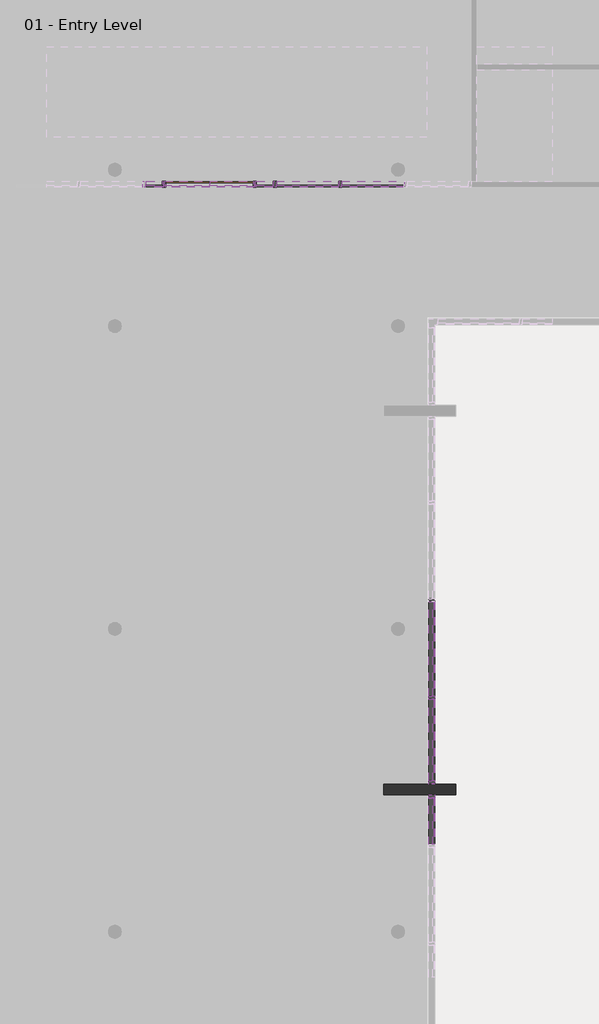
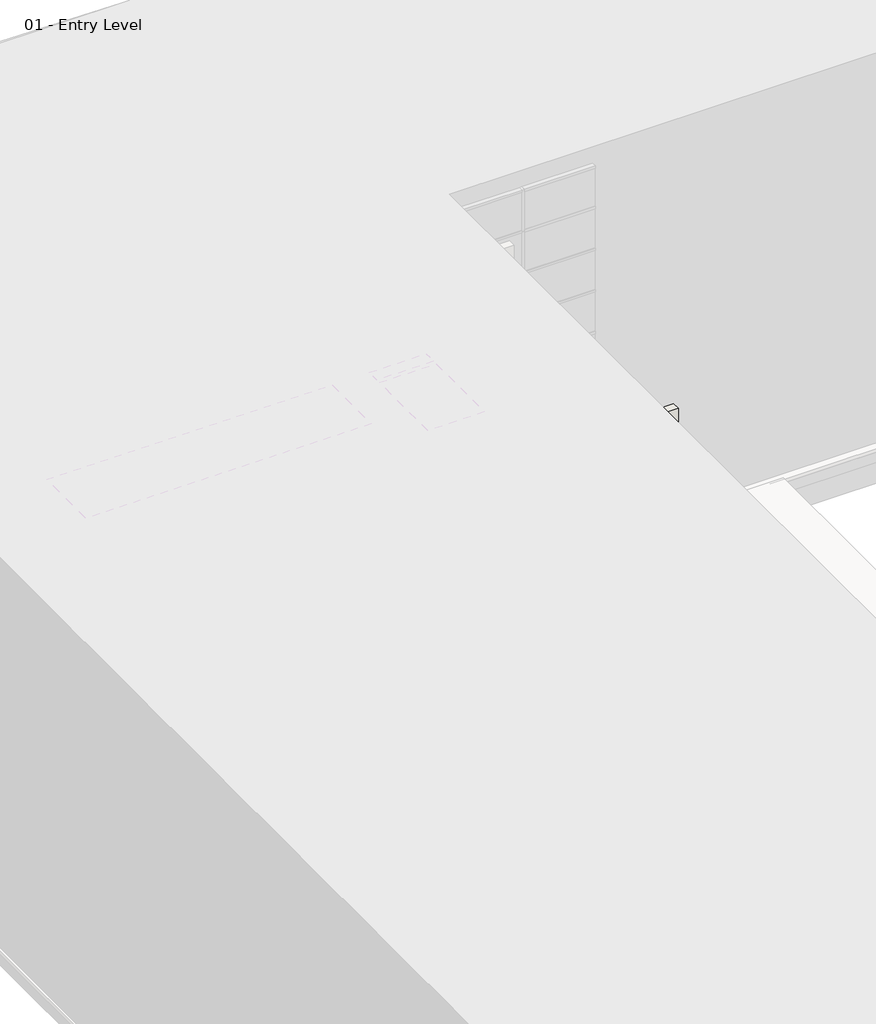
# One storey, part 24 of 35: 84 members, 35 plates, 1 door, 1 wall.
"""IFC4 building model written with IfcOpenShell, lengths in millimetres."""

from ifc_helpers import new_model, si_unit, origin, origin_with_axes, place, context, project, spatial, polyline, outline, extrude, transform, mapped, element, save
from components import curtain_wall_dbl_glass_curtain_wall_dbl_glass_a5de0235, member_2b49869a, member_75074519, member_18e22e2d, member_391b434c, member_9e90ae50, member_9193c932, member_515a5600, member_9fe7059d, member_6186cc23, member_5d67b9fc, member_1526e78e, member_7bb4584e, member_a24b65ef, member_2fd083e0, member_5d3d0423, member_bc0ecbbc, member_9c90f9a7, member_7b5c996e, member_fc8dcb27, member_ab56a4f5, member_6f538441, member_86ee58f4, member_2917896d, member_173ef4f5, member_5788e328, system_panel_glazed_1b9d6098, system_panel_glazed_70da479d, system_panel_glazed_bfb2913e, system_panel_glazed_9f006979, system_panel_glazed_379c68fb, system_panel_glazed_1c1023c8, system_panel_glazed_c092dd15, system_panel_glazed_f6aa3a43, system_panel_glazed_ef26b6ac, system_panel_glazed_1a787650, system_panel_glazed_06504d0b, system_panel_glazed_db96f60a

model = new_model("IFC4")

# Units and contexts
model_context = context("Model", 3, world=origin())
ifc_project = project(units=[si_unit("LENGTHUNIT", "METRE", prefix="MILLI")], contexts=[model_context])

# Site, building, storey
site = spatial("IfcSite", under=ifc_project)
building = spatial("IfcBuilding", under=site)
storey = spatial("IfcBuildingStorey", under=building, Name="01 - Entry Level", Elevation=0.0)

# Door
placement = place(None, origin())
curtain_wall_dbl_glass_curtain_wall_dbl_glass_shape = curtain_wall_dbl_glass_curtain_wall_dbl_glass_a5de0235(model_context)
element("IfcDoor", 1, ObjectType="Curtain Wall Dbl Glass : Curtain Wall Dbl Glass", at=placement, inside=storey, context=model_context, shape_type="MappedRepresentation", body=[
    mapped(curtain_wall_dbl_glass_curtain_wall_dbl_glass_shape, transform((12561.2207476, 45608.8, 0.0), x_axis=(-1.0, 0.0, 0.0), y_axis=(0.0, -1.0, 0.0), z_axis=(0.0, 0.0, 1.0))),
])

# Members
member_shape = member_2b49869a(model_context)
element("IfcMember", 2, ObjectType="Rectangular Mullion : 2.5\" x 5\" rectangular", at=placement, inside=storey, context=model_context, shape_type="MappedRepresentation", body=[
    mapped(member_shape, transform((17184.0207476, 34928.1, 9753.6), x_axis=(0.0, 1.0, 0.0), y_axis=(1.0, 0.0, 0.0), z_axis=(0.0, 0.0, -1.0))),
])
member_2_shape = member_75074519(model_context)
element("IfcMember", 3, ObjectType="Rectangular Mullion : 2.5\" x 5\" rectangular", at=placement, inside=storey, context=model_context, shape_type="MappedRepresentation", body=[
    mapped(member_2_shape, transform((17184.0207476, 33137.4, 10972.8), x_axis=(0.0, -1.0, 0.0), y_axis=(1.0, 0.0, 0.0), z_axis=(0.0, 0.0, 1.0))),
])
element("IfcMember", 4, ObjectType="Rectangular Mullion : 2.5\" x 5\" rectangular", at=placement, inside=storey, context=model_context, shape_type="MappedRepresentation", body=[
    mapped(member_2_shape, transform((17184.0207476, 32908.8, 9753.6), x_axis=(0.0, 1.0, 0.0), y_axis=(1.0, 0.0, 0.0), z_axis=(0.0, 0.0, -1.0))),
])
member_3_shape = member_18e22e2d(model_context)
element("IfcMember", 5, ObjectType="Rectangular Mullion : 2.5\" x 5\" rectangular", at=placement, inside=storey, context=model_context, shape_type="MappedRepresentation", body=[
    mapped(member_3_shape, transform((15283.5564619, 45608.8, 2438.4), x_axis=(-1.0, 0.0, 0.0), y_axis=(0.0, 1.0, 0.0), z_axis=(0.0, 0.0, -1.0))),
])
element("IfcMember", 6, ObjectType="Rectangular Mullion : 2.5\" x 5\" rectangular", at=placement, inside=storey, context=model_context, shape_type="MappedRepresentation", body=[
    mapped(member_3_shape, transform((13923.7493191, 45608.8, 2438.4), x_axis=(-1.0, 0.0, 0.0), y_axis=(0.0, 1.0, 0.0), z_axis=(0.0, 0.0, -1.0))),
])
member_4_shape = member_391b434c(model_context)
element("IfcMember", 7, ObjectType="Rectangular Mullion : 2.5\" x 5\" rectangular", at=placement, inside=storey, context=model_context, shape_type="MappedRepresentation", body=[
    mapped(member_4_shape, transform((17184.0207476, 36928.35, 10972.8), x_axis=(0.0, 0.0, 1.0), y_axis=(1.0, 0.0, 0.0), z_axis=(0.0, 1.0, 0.0))),
])
element("IfcMember", 8, ObjectType="Rectangular Mullion : 2.5\" x 5\" rectangular", at=placement, inside=storey, context=model_context, shape_type="MappedRepresentation", body=[
    mapped(member_4_shape, transform((17184.0207476, 34959.85, 0.0), x_axis=(0.0, 0.0, -1.0), y_axis=(1.0, 0.0, 0.0), z_axis=(0.0, -1.0, 0.0))),
])
element("IfcMember", 9, ObjectType="Rectangular Mullion : 2.5\" x 5\" rectangular", at=placement, inside=storey, context=model_context, shape_type="MappedRepresentation", body=[
    mapped(member_4_shape, transform((17184.0207476, 36991.85, 0.0), x_axis=(0.0, 0.0, -1.0), y_axis=(1.0, 0.0, 0.0), z_axis=(0.0, -1.0, 0.0))),
])
member_5_shape = member_9e90ae50(model_context)
element("IfcMember", 10, ObjectType="Rectangular Mullion : 2.5\" x 5\" rectangular", at=placement, inside=storey, context=model_context, shape_type="MappedRepresentation", body=[
    mapped(member_5_shape, transform((17184.0207476, 36928.35, 1219.2), x_axis=(0.0, 0.0, 1.0), y_axis=(1.0, 0.0, 0.0), z_axis=(0.0, 1.0, 0.0))),
])
element("IfcMember", 11, ObjectType="Rectangular Mullion : 2.5\" x 5\" rectangular", at=placement, inside=storey, context=model_context, shape_type="MappedRepresentation", body=[
    mapped(member_5_shape, transform((17184.0207476, 36928.35, 2438.4), x_axis=(0.0, 0.0, 1.0), y_axis=(1.0, 0.0, 0.0), z_axis=(0.0, 1.0, 0.0))),
])
element("IfcMember", 12, ObjectType="Rectangular Mullion : 2.5\" x 5\" rectangular", at=placement, inside=storey, context=model_context, shape_type="MappedRepresentation", body=[
    mapped(member_5_shape, transform((17184.0207476, 36928.35, 3657.6), x_axis=(0.0, 0.0, 1.0), y_axis=(1.0, 0.0, 0.0), z_axis=(0.0, 1.0, 0.0))),
])
element("IfcMember", 13, ObjectType="Rectangular Mullion : 2.5\" x 5\" rectangular", at=placement, inside=storey, context=model_context, shape_type="MappedRepresentation", body=[
    mapped(member_5_shape, transform((17184.0207476, 36928.35, 4876.8), x_axis=(0.0, 0.0, 1.0), y_axis=(1.0, 0.0, 0.0), z_axis=(0.0, 1.0, 0.0))),
])
element("IfcMember", 14, ObjectType="Rectangular Mullion : 2.5\" x 5\" rectangular", at=placement, inside=storey, context=model_context, shape_type="MappedRepresentation", body=[
    mapped(member_5_shape, transform((17184.0207476, 36928.35, 6096.0), x_axis=(0.0, 0.0, 1.0), y_axis=(1.0, 0.0, 0.0), z_axis=(0.0, 1.0, 0.0))),
])
element("IfcMember", 15, ObjectType="Rectangular Mullion : 2.5\" x 5\" rectangular", at=placement, inside=storey, context=model_context, shape_type="MappedRepresentation", body=[
    mapped(member_5_shape, transform((17184.0207476, 36928.35, 7315.2), x_axis=(0.0, 0.0, 1.0), y_axis=(1.0, 0.0, 0.0), z_axis=(0.0, 1.0, 0.0))),
])
element("IfcMember", 16, ObjectType="Rectangular Mullion : 2.5\" x 5\" rectangular", at=placement, inside=storey, context=model_context, shape_type="MappedRepresentation", body=[
    mapped(member_5_shape, transform((17184.0207476, 36928.35, 8534.4), x_axis=(0.0, 0.0, 1.0), y_axis=(1.0, 0.0, 0.0), z_axis=(0.0, 1.0, 0.0))),
])
element("IfcMember", 17, ObjectType="Rectangular Mullion : 2.5\" x 5\" rectangular", at=placement, inside=storey, context=model_context, shape_type="MappedRepresentation", body=[
    mapped(member_5_shape, transform((17184.0207476, 36928.35, 9753.6), x_axis=(0.0, 0.0, 1.0), y_axis=(1.0, 0.0, 0.0), z_axis=(0.0, 1.0, 0.0))),
])
element("IfcMember", 18, ObjectType="Rectangular Mullion : 2.5\" x 5\" rectangular", at=placement, inside=storey, context=model_context, shape_type="MappedRepresentation", body=[
    mapped(member_shape, transform((17184.0207476, 34928.1, 0.0), x_axis=(0.0, 1.0, 0.0), y_axis=(1.0, 0.0, 0.0), z_axis=(0.0, 0.0, -1.0))),
])
element("IfcMember", 19, ObjectType="Rectangular Mullion : 2.5\" x 5\" rectangular", at=placement, inside=storey, context=model_context, shape_type="MappedRepresentation", body=[
    mapped(member_shape, transform((17184.0207476, 36960.1, 0.0), x_axis=(0.0, 1.0, 0.0), y_axis=(1.0, 0.0, 0.0), z_axis=(0.0, 0.0, -1.0))),
])
element("IfcMember", 20, ObjectType="Rectangular Mullion : 2.5\" x 5\" rectangular", at=placement, inside=storey, context=model_context, shape_type="MappedRepresentation", body=[
    mapped(member_shape, transform((17184.0207476, 34928.1, 1219.2), x_axis=(0.0, 1.0, 0.0), y_axis=(1.0, 0.0, 0.0), z_axis=(0.0, 0.0, -1.0))),
])
element("IfcMember", 21, ObjectType="Rectangular Mullion : 2.5\" x 5\" rectangular", at=placement, inside=storey, context=model_context, shape_type="MappedRepresentation", body=[
    mapped(member_shape, transform((17184.0207476, 34928.1, 2438.4), x_axis=(0.0, 1.0, 0.0), y_axis=(1.0, 0.0, 0.0), z_axis=(0.0, 0.0, -1.0))),
])
element("IfcMember", 22, ObjectType="Rectangular Mullion : 2.5\" x 5\" rectangular", at=placement, inside=storey, context=model_context, shape_type="MappedRepresentation", body=[
    mapped(member_shape, transform((17184.0207476, 34928.1, 3657.6), x_axis=(0.0, 1.0, 0.0), y_axis=(1.0, 0.0, 0.0), z_axis=(0.0, 0.0, -1.0))),
])
element("IfcMember", 23, ObjectType="Rectangular Mullion : 2.5\" x 5\" rectangular", at=placement, inside=storey, context=model_context, shape_type="MappedRepresentation", body=[
    mapped(member_shape, transform((17184.0207476, 34928.1, 4876.8), x_axis=(0.0, 1.0, 0.0), y_axis=(1.0, 0.0, 0.0), z_axis=(0.0, 0.0, -1.0))),
])
element("IfcMember", 24, ObjectType="Rectangular Mullion : 2.5\" x 5\" rectangular", at=placement, inside=storey, context=model_context, shape_type="MappedRepresentation", body=[
    mapped(member_shape, transform((17184.0207476, 34928.1, 6096.0), x_axis=(0.0, 1.0, 0.0), y_axis=(1.0, 0.0, 0.0), z_axis=(0.0, 0.0, -1.0))),
])
element("IfcMember", 25, ObjectType="Rectangular Mullion : 2.5\" x 5\" rectangular", at=placement, inside=storey, context=model_context, shape_type="MappedRepresentation", body=[
    mapped(member_shape, transform((17184.0207476, 34928.1, 7315.2), x_axis=(0.0, 1.0, 0.0), y_axis=(1.0, 0.0, 0.0), z_axis=(0.0, 0.0, -1.0))),
])
element("IfcMember", 26, ObjectType="Rectangular Mullion : 2.5\" x 5\" rectangular", at=placement, inside=storey, context=model_context, shape_type="MappedRepresentation", body=[
    mapped(member_shape, transform((17184.0207476, 34928.1, 8534.4), x_axis=(0.0, 1.0, 0.0), y_axis=(1.0, 0.0, 0.0), z_axis=(0.0, 0.0, -1.0))),
])
element("IfcMember", 27, ObjectType="Rectangular Mullion : 2.5\" x 5\" rectangular", at=placement, inside=storey, context=model_context, shape_type="MappedRepresentation", body=[
    mapped(member_2_shape, transform((17184.0207476, 32908.8, 0.0), x_axis=(0.0, 1.0, 0.0), y_axis=(1.0, 0.0, 0.0), z_axis=(0.0, 0.0, -1.0))),
])
element("IfcMember", 28, ObjectType="Rectangular Mullion : 2.5\" x 5\" rectangular", at=placement, inside=storey, context=model_context, shape_type="MappedRepresentation", body=[
    mapped(member_2_shape, transform((17184.0207476, 32908.8, 1219.2), x_axis=(0.0, 1.0, 0.0), y_axis=(1.0, 0.0, 0.0), z_axis=(0.0, 0.0, -1.0))),
])
element("IfcMember", 29, ObjectType="Rectangular Mullion : 2.5\" x 5\" rectangular", at=placement, inside=storey, context=model_context, shape_type="MappedRepresentation", body=[
    mapped(member_2_shape, transform((17184.0207476, 32908.8, 2438.4), x_axis=(0.0, 1.0, 0.0), y_axis=(1.0, 0.0, 0.0), z_axis=(0.0, 0.0, -1.0))),
])
element("IfcMember", 30, ObjectType="Rectangular Mullion : 2.5\" x 5\" rectangular", at=placement, inside=storey, context=model_context, shape_type="MappedRepresentation", body=[
    mapped(member_2_shape, transform((17184.0207476, 32908.8, 3657.6), x_axis=(0.0, 1.0, 0.0), y_axis=(1.0, 0.0, 0.0), z_axis=(0.0, 0.0, -1.0))),
])
element("IfcMember", 31, ObjectType="Rectangular Mullion : 2.5\" x 5\" rectangular", at=placement, inside=storey, context=model_context, shape_type="MappedRepresentation", body=[
    mapped(member_2_shape, transform((17184.0207476, 32908.8, 4876.8), x_axis=(0.0, 1.0, 0.0), y_axis=(1.0, 0.0, 0.0), z_axis=(0.0, 0.0, -1.0))),
])
element("IfcMember", 32, ObjectType="Rectangular Mullion : 2.5\" x 5\" rectangular", at=placement, inside=storey, context=model_context, shape_type="MappedRepresentation", body=[
    mapped(member_2_shape, transform((17184.0207476, 32908.8, 6096.0), x_axis=(0.0, 1.0, 0.0), y_axis=(1.0, 0.0, 0.0), z_axis=(0.0, 0.0, -1.0))),
])
element("IfcMember", 33, ObjectType="Rectangular Mullion : 2.5\" x 5\" rectangular", at=placement, inside=storey, context=model_context, shape_type="MappedRepresentation", body=[
    mapped(member_2_shape, transform((17184.0207476, 32908.8, 7315.2), x_axis=(0.0, 1.0, 0.0), y_axis=(1.0, 0.0, 0.0), z_axis=(0.0, 0.0, -1.0))),
])
element("IfcMember", 34, ObjectType="Rectangular Mullion : 2.5\" x 5\" rectangular", at=placement, inside=storey, context=model_context, shape_type="MappedRepresentation", body=[
    mapped(member_2_shape, transform((17184.0207476, 32908.8, 8534.4), x_axis=(0.0, 1.0, 0.0), y_axis=(1.0, 0.0, 0.0), z_axis=(0.0, 0.0, -1.0))),
])
element("IfcMember", 35, ObjectType="Rectangular Mullion : 2.5\" x 5\" rectangular", at=placement, inside=storey, context=model_context, shape_type="MappedRepresentation", body=[
    mapped(member_2_shape, transform((17184.0207476, 33137.4, 1219.2), x_axis=(0.0, -1.0, 0.0), y_axis=(1.0, 0.0, 0.0), z_axis=(0.0, 0.0, 1.0))),
])
element("IfcMember", 36, ObjectType="Rectangular Mullion : 2.5\" x 5\" rectangular", at=placement, inside=storey, context=model_context, shape_type="MappedRepresentation", body=[
    mapped(member_2_shape, transform((17184.0207476, 33137.4, 2438.4), x_axis=(0.0, -1.0, 0.0), y_axis=(1.0, 0.0, 0.0), z_axis=(0.0, 0.0, 1.0))),
])
element("IfcMember", 37, ObjectType="Rectangular Mullion : 2.5\" x 5\" rectangular", at=placement, inside=storey, context=model_context, shape_type="MappedRepresentation", body=[
    mapped(member_2_shape, transform((17184.0207476, 33137.4, 3657.6), x_axis=(0.0, -1.0, 0.0), y_axis=(1.0, 0.0, 0.0), z_axis=(0.0, 0.0, 1.0))),
])
element("IfcMember", 38, ObjectType="Rectangular Mullion : 2.5\" x 5\" rectangular", at=placement, inside=storey, context=model_context, shape_type="MappedRepresentation", body=[
    mapped(member_2_shape, transform((17184.0207476, 33137.4, 4876.8), x_axis=(0.0, -1.0, 0.0), y_axis=(1.0, 0.0, 0.0), z_axis=(0.0, 0.0, 1.0))),
])
element("IfcMember", 39, ObjectType="Rectangular Mullion : 2.5\" x 5\" rectangular", at=placement, inside=storey, context=model_context, shape_type="MappedRepresentation", body=[
    mapped(member_2_shape, transform((17184.0207476, 33137.4, 6096.0), x_axis=(0.0, -1.0, 0.0), y_axis=(1.0, 0.0, 0.0), z_axis=(0.0, 0.0, 1.0))),
])
element("IfcMember", 40, ObjectType="Rectangular Mullion : 2.5\" x 5\" rectangular", at=placement, inside=storey, context=model_context, shape_type="MappedRepresentation", body=[
    mapped(member_2_shape, transform((17184.0207476, 33137.4, 7315.2), x_axis=(0.0, -1.0, 0.0), y_axis=(1.0, 0.0, 0.0), z_axis=(0.0, 0.0, 1.0))),
])
element("IfcMember", 41, ObjectType="Rectangular Mullion : 2.5\" x 5\" rectangular", at=placement, inside=storey, context=model_context, shape_type="MappedRepresentation", body=[
    mapped(member_2_shape, transform((17184.0207476, 33137.4, 8534.4), x_axis=(0.0, -1.0, 0.0), y_axis=(1.0, 0.0, 0.0), z_axis=(0.0, 0.0, 1.0))),
])
element("IfcMember", 42, ObjectType="Rectangular Mullion : 2.5\" x 5\" rectangular", at=placement, inside=storey, context=model_context, shape_type="MappedRepresentation", body=[
    mapped(member_2_shape, transform((17184.0207476, 33137.4, 9753.6), x_axis=(0.0, -1.0, 0.0), y_axis=(1.0, 0.0, 0.0), z_axis=(0.0, 0.0, 1.0))),
])
member_6_shape = member_9193c932(model_context)
element("IfcMember", 43, ObjectType="Rectangular Mullion : 2.5\" x 5\" rectangular", at=placement, inside=storey, context=model_context, shape_type="MappedRepresentation", body=[
    mapped(member_6_shape, transform((17184.0207476, 32845.3, 10972.8), x_axis=(0.0, 0.0, 1.0), y_axis=(1.0, 0.0, 0.0), z_axis=(0.0, 1.0, 0.0))),
])
element("IfcMember", 44, ObjectType="Rectangular Mullion : 2.5\" x 5\" rectangular", at=placement, inside=storey, context=model_context, shape_type="MappedRepresentation", body=[
    mapped(member_3_shape, transform((17184.0207476, 32845.3, 1219.2), x_axis=(0.0, 0.0, 1.0), y_axis=(1.0, 0.0, 0.0), z_axis=(0.0, 1.0, 0.0))),
])
element("IfcMember", 45, ObjectType="Rectangular Mullion : 2.5\" x 5\" rectangular", at=placement, inside=storey, context=model_context, shape_type="MappedRepresentation", body=[
    mapped(member_3_shape, transform((17184.0207476, 32845.3, 2438.4), x_axis=(0.0, 0.0, 1.0), y_axis=(1.0, 0.0, 0.0), z_axis=(0.0, 1.0, 0.0))),
])
element("IfcMember", 46, ObjectType="Rectangular Mullion : 2.5\" x 5\" rectangular", at=placement, inside=storey, context=model_context, shape_type="MappedRepresentation", body=[
    mapped(member_3_shape, transform((17184.0207476, 32845.3, 3657.6), x_axis=(0.0, 0.0, 1.0), y_axis=(1.0, 0.0, 0.0), z_axis=(0.0, 1.0, 0.0))),
])
element("IfcMember", 47, ObjectType="Rectangular Mullion : 2.5\" x 5\" rectangular", at=placement, inside=storey, context=model_context, shape_type="MappedRepresentation", body=[
    mapped(member_3_shape, transform((17184.0207476, 32845.3, 4876.8), x_axis=(0.0, 0.0, 1.0), y_axis=(1.0, 0.0, 0.0), z_axis=(0.0, 1.0, 0.0))),
])
element("IfcMember", 48, ObjectType="Rectangular Mullion : 2.5\" x 5\" rectangular", at=placement, inside=storey, context=model_context, shape_type="MappedRepresentation", body=[
    mapped(member_3_shape, transform((17184.0207476, 32845.3, 6096.0), x_axis=(0.0, 0.0, 1.0), y_axis=(1.0, 0.0, 0.0), z_axis=(0.0, 1.0, 0.0))),
])
element("IfcMember", 49, ObjectType="Rectangular Mullion : 2.5\" x 5\" rectangular", at=placement, inside=storey, context=model_context, shape_type="MappedRepresentation", body=[
    mapped(member_3_shape, transform((17184.0207476, 32845.3, 7315.2), x_axis=(0.0, 0.0, 1.0), y_axis=(1.0, 0.0, 0.0), z_axis=(0.0, 1.0, 0.0))),
])
element("IfcMember", 50, ObjectType="Rectangular Mullion : 2.5\" x 5\" rectangular", at=placement, inside=storey, context=model_context, shape_type="MappedRepresentation", body=[
    mapped(member_3_shape, transform((17184.0207476, 32845.3, 8534.4), x_axis=(0.0, 0.0, 1.0), y_axis=(1.0, 0.0, 0.0), z_axis=(0.0, 1.0, 0.0))),
])
element("IfcMember", 51, ObjectType="Rectangular Mullion : 2.5\" x 5\" rectangular", at=placement, inside=storey, context=model_context, shape_type="MappedRepresentation", body=[
    mapped(member_3_shape, transform((17184.0207476, 32845.3, 9753.6), x_axis=(0.0, 0.0, 1.0), y_axis=(1.0, 0.0, 0.0), z_axis=(0.0, 1.0, 0.0))),
])
member_7_shape = member_515a5600(model_context)
element("IfcMember", 52, ObjectType="Rectangular Mullion : 2.5\" x 5\" rectangular", at=placement, inside=storey, context=model_context, shape_type="MappedRepresentation", body=[
    mapped(member_7_shape, transform((17184.0207476, 34896.35, 10972.8), x_axis=(0.0, 0.0, 1.0), y_axis=(1.0, 0.0, 0.0), z_axis=(0.0, 1.0, 0.0))),
])
element("IfcMember", 53, ObjectType="Rectangular Mullion : 2.5\" x 5\" rectangular", at=placement, inside=storey, context=model_context, shape_type="MappedRepresentation", body=[
    mapped(member_7_shape, transform((17184.0207476, 33200.9, 0.0), x_axis=(0.0, 0.0, -1.0), y_axis=(1.0, 0.0, 0.0), z_axis=(0.0, -1.0, 0.0))),
])
member_8_shape = member_9fe7059d(model_context)
element("IfcMember", 54, ObjectType="Rectangular Mullion : 2.5\" x 5\" rectangular", at=placement, inside=storey, context=model_context, shape_type="MappedRepresentation", body=[
    mapped(member_8_shape, transform((17184.0207476, 34896.35, 1219.2), x_axis=(0.0, 0.0, 1.0), y_axis=(1.0, 0.0, 0.0), z_axis=(0.0, 1.0, 0.0))),
])
element("IfcMember", 55, ObjectType="Rectangular Mullion : 2.5\" x 5\" rectangular", at=placement, inside=storey, context=model_context, shape_type="MappedRepresentation", body=[
    mapped(member_8_shape, transform((17184.0207476, 34896.35, 2438.4), x_axis=(0.0, 0.0, 1.0), y_axis=(1.0, 0.0, 0.0), z_axis=(0.0, 1.0, 0.0))),
])
element("IfcMember", 56, ObjectType="Rectangular Mullion : 2.5\" x 5\" rectangular", at=placement, inside=storey, context=model_context, shape_type="MappedRepresentation", body=[
    mapped(member_8_shape, transform((17184.0207476, 34896.35, 3657.6), x_axis=(0.0, 0.0, 1.0), y_axis=(1.0, 0.0, 0.0), z_axis=(0.0, 1.0, 0.0))),
])
element("IfcMember", 57, ObjectType="Rectangular Mullion : 2.5\" x 5\" rectangular", at=placement, inside=storey, context=model_context, shape_type="MappedRepresentation", body=[
    mapped(member_8_shape, transform((17184.0207476, 34896.35, 4876.8), x_axis=(0.0, 0.0, 1.0), y_axis=(1.0, 0.0, 0.0), z_axis=(0.0, 1.0, 0.0))),
])
element("IfcMember", 58, ObjectType="Rectangular Mullion : 2.5\" x 5\" rectangular", at=placement, inside=storey, context=model_context, shape_type="MappedRepresentation", body=[
    mapped(member_8_shape, transform((17184.0207476, 34896.35, 6096.0), x_axis=(0.0, 0.0, 1.0), y_axis=(1.0, 0.0, 0.0), z_axis=(0.0, 1.0, 0.0))),
])
element("IfcMember", 59, ObjectType="Rectangular Mullion : 2.5\" x 5\" rectangular", at=placement, inside=storey, context=model_context, shape_type="MappedRepresentation", body=[
    mapped(member_8_shape, transform((17184.0207476, 34896.35, 7315.2), x_axis=(0.0, 0.0, 1.0), y_axis=(1.0, 0.0, 0.0), z_axis=(0.0, 1.0, 0.0))),
])
element("IfcMember", 60, ObjectType="Rectangular Mullion : 2.5\" x 5\" rectangular", at=placement, inside=storey, context=model_context, shape_type="MappedRepresentation", body=[
    mapped(member_8_shape, transform((17184.0207476, 34896.35, 8534.4), x_axis=(0.0, 0.0, 1.0), y_axis=(1.0, 0.0, 0.0), z_axis=(0.0, 1.0, 0.0))),
])
element("IfcMember", 61, ObjectType="Rectangular Mullion : 2.5\" x 5\" rectangular", at=placement, inside=storey, context=model_context, shape_type="MappedRepresentation", body=[
    mapped(member_8_shape, transform((17184.0207476, 34896.35, 9753.6), x_axis=(0.0, 0.0, 1.0), y_axis=(1.0, 0.0, 0.0), z_axis=(0.0, 1.0, 0.0))),
])
member_9_shape = member_6186cc23(model_context)
element("IfcMember", 62, ObjectType="Rectangular Mullion : 2.5\" x 5\" rectangular", at=placement, inside=storey, context=model_context, shape_type="MappedRepresentation", body=[
    mapped(member_9_shape, transform((13923.7493191, 45608.8, 0.0), x_axis=(-1.0, 0.0, 0.0), y_axis=(0.0, 1.0, 0.0), z_axis=(0.0, 0.0, -1.0))),
])
member_10_shape = member_5d67b9fc(model_context)
element("IfcMember", 63, ObjectType="Rectangular Mullion : 2.5\" x 5\" rectangular", at=placement, inside=storey, context=model_context, shape_type="MappedRepresentation", body=[
    mapped(member_10_shape, transform((13923.7493191, 45608.8, 2165.35), x_axis=(-1.0, 0.0, 0.0), y_axis=(0.0, 1.0, 0.0), z_axis=(0.0, 0.0, -1.0))),
])
element("IfcMember", 64, ObjectType="Rectangular Mullion : 2.5\" x 5\" rectangular", at=placement, inside=storey, context=model_context, shape_type="MappedRepresentation", body=[
    mapped(member_10_shape, transform((11204.1350333, 45608.8, 2165.35), x_axis=(-1.0, 0.0, 0.0), y_axis=(0.0, 1.0, 0.0), z_axis=(0.0, 0.0, -1.0))),
])
element("IfcMember", 65, ObjectType="Rectangular Mullion : 2.5\" x 5\" rectangular", at=placement, inside=storey, context=model_context, shape_type="MappedRepresentation", body=[
    mapped(member_9_shape, transform((15283.5564619, 45608.8, 0.0), x_axis=(-1.0, 0.0, 0.0), y_axis=(0.0, 1.0, 0.0), z_axis=(0.0, 0.0, -1.0))),
])
element("IfcMember", 66, ObjectType="Rectangular Mullion : 2.5\" x 5\" rectangular", at=placement, inside=storey, context=model_context, shape_type="MappedRepresentation", body=[
    mapped(member_10_shape, transform((15283.5564619, 45608.8, 2165.35), x_axis=(-1.0, 0.0, 0.0), y_axis=(0.0, 1.0, 0.0), z_axis=(0.0, 0.0, -1.0))),
])
member_11_shape = member_1526e78e(model_context)
element("IfcMember", 67, ObjectType="Rectangular Mullion : 2.5\" x 5\" rectangular", at=placement, inside=storey, context=model_context, shape_type="MappedRepresentation", body=[
    mapped(member_11_shape, transform((11615.0707476, 45608.8, 0.0), x_axis=(-1.0, 0.0, 0.0), y_axis=(0.0, 1.0, 0.0), z_axis=(0.0, 0.0, -1.0))),
])
element("IfcMember", 68, ObjectType="Rectangular Mullion : 2.5\" x 5\" rectangular", at=placement, inside=storey, context=model_context, shape_type="MappedRepresentation", body=[
    mapped(member_11_shape, transform((13507.3707476, 45608.8, 0.0), x_axis=(-1.0, 0.0, 0.0), y_axis=(0.0, 1.0, 0.0), z_axis=(0.0, 0.0, -1.0))),
])
member_12_shape = member_7bb4584e(model_context)
element("IfcMember", 69, ObjectType="Rectangular Mullion : 2.5\" x 5\" rectangular", at=placement, inside=storey, context=model_context, shape_type="MappedRepresentation", body=[
    mapped(member_12_shape, transform((15315.3064619, 45608.8, 3403.6), x_axis=(0.0, 0.0, 1.0), y_axis=(0.0, 1.0, 0.0), z_axis=(-1.0, 0.0, 0.0))),
])
element("IfcMember", 70, ObjectType="Rectangular Mullion : 2.5\" x 5\" rectangular", at=placement, inside=storey, context=model_context, shape_type="MappedRepresentation", body=[
    mapped(member_12_shape, transform((13955.4993191, 45608.8, 3403.6), x_axis=(0.0, 0.0, 1.0), y_axis=(0.0, 1.0, 0.0), z_axis=(-1.0, 0.0, 0.0))),
])
member_13_shape = member_a24b65ef(model_context)
element("IfcMember", 71, ObjectType="Rectangular Mullion : 2.5\" x 5\" rectangular", at=placement, inside=storey, context=model_context, shape_type="MappedRepresentation", body=[
    mapped(member_13_shape, transform((12563.9421762, 45608.8, 3403.6), x_axis=(0.0, 0.0, 1.0), y_axis=(0.0, 1.0, 0.0), z_axis=(-1.0, 0.0, 0.0))),
])
element("IfcMember", 72, ObjectType="Rectangular Mullion : 2.5\" x 5\" rectangular", at=placement, inside=storey, context=model_context, shape_type="MappedRepresentation", body=[
    mapped(member_12_shape, transform((15251.8064619, 45608.8, 0.0), x_axis=(0.0, 0.0, -1.0), y_axis=(0.0, 1.0, 0.0), z_axis=(1.0, 0.0, 0.0))),
])
member_14_shape = member_2fd083e0(model_context)
element("IfcMember", 73, ObjectType="Rectangular Mullion : 2.5\" x 5\" rectangular", at=placement, inside=storey, context=model_context, shape_type="MappedRepresentation", body=[
    mapped(member_14_shape, transform((15315.3064619, 45608.8, 2438.4), x_axis=(0.0, 0.0, 1.0), y_axis=(0.0, 1.0, 0.0), z_axis=(-1.0, 0.0, 0.0))),
])
element("IfcMember", 74, ObjectType="Rectangular Mullion : 2.5\" x 5\" rectangular", at=placement, inside=storey, context=model_context, shape_type="MappedRepresentation", body=[
    mapped(member_14_shape, transform((13955.4993191, 45608.8, 2438.4), x_axis=(0.0, 0.0, 1.0), y_axis=(0.0, 1.0, 0.0), z_axis=(-1.0, 0.0, 0.0))),
])
member_15_shape = member_5d3d0423(model_context)
element("IfcMember", 75, ObjectType="Rectangular Mullion : 2.5\" x 5\" rectangular", at=placement, inside=storey, context=model_context, shape_type="MappedRepresentation", body=[
    mapped(member_15_shape, transform((13507.3707476, 45608.8, 2438.4), x_axis=(0.0, 0.0, 1.0), y_axis=(0.0, 1.0, 0.0), z_axis=(-1.0, 0.0, 0.0))),
])
member_16_shape = member_bc0ecbbc(model_context)
element("IfcMember", 76, ObjectType="Rectangular Mullion : 2.5\" x 5\" rectangular", at=placement, inside=storey, context=model_context, shape_type="MappedRepresentation", body=[
    mapped(member_16_shape, transform((11615.0707476, 45608.8, 3403.6), x_axis=(0.0, 0.0, 1.0), y_axis=(0.0, 1.0, 0.0), z_axis=(-1.0, 0.0, 0.0))),
])
member_17_shape = member_9c90f9a7(model_context)
element("IfcMember", 77, ObjectType="Rectangular Mullion : 2.5\" x 5\" rectangular", at=placement, inside=storey, context=model_context, shape_type="MappedRepresentation", body=[
    mapped(member_17_shape, transform((11583.3207476, 45608.8, 0.0), x_axis=(0.0, 0.0, -1.0), y_axis=(0.0, 1.0, 0.0), z_axis=(1.0, 0.0, 0.0))),
])
member_18_shape = member_7b5c996e(model_context)
element("IfcMember", 78, ObjectType="Rectangular Mullion : 2.5\" x 5\" rectangular", at=placement, inside=storey, context=model_context, shape_type="MappedRepresentation", body=[
    mapped(member_18_shape, transform((11235.8850333, 45608.8, 2438.4), x_axis=(0.0, 0.0, 1.0), y_axis=(0.0, 1.0, 0.0), z_axis=(-1.0, 0.0, 0.0))),
])
member_19_shape = member_fc8dcb27(model_context)
element("IfcMember", 79, ObjectType="Rectangular Mullion : 2.5\" x 5\" rectangular", at=placement, inside=storey, context=model_context, shape_type="MappedRepresentation", body=[
    mapped(member_19_shape, transform((13507.3707476, 45608.8, 3403.6), x_axis=(0.0, 0.0, 1.0), y_axis=(0.0, 1.0, 0.0), z_axis=(-1.0, 0.0, 0.0))),
])
member_20_shape = member_ab56a4f5(model_context)
element("IfcMember", 80, ObjectType="Rectangular Mullion : 2.5\" x 5\" rectangular", at=placement, inside=storey, context=model_context, shape_type="MappedRepresentation", body=[
    mapped(member_20_shape, transform((12563.9421762, 45608.8, 2438.4), x_axis=(0.0, 0.0, 1.0), y_axis=(0.0, 1.0, 0.0), z_axis=(-1.0, 0.0, 0.0))),
])
member_21_shape = member_6f538441(model_context)
element("IfcMember", 81, ObjectType="Rectangular Mullion : 2.5\" x 5\" rectangular", at=placement, inside=storey, context=model_context, shape_type="MappedRepresentation", body=[
    mapped(member_21_shape, transform((13891.9993191, 45608.8, 0.0), x_axis=(0.0, 0.0, -1.0), y_axis=(0.0, 1.0, 0.0), z_axis=(1.0, 0.0, 0.0))),
])
member_22_shape = member_86ee58f4(model_context)
element("IfcMember", 82, ObjectType="Rectangular Mullion : 2.5\" x 5\" rectangular", at=placement, inside=storey, context=model_context, shape_type="MappedRepresentation", body=[
    mapped(member_22_shape, transform((13539.1207476, 45608.8, 2165.35), x_axis=(0.0, 0.0, 1.0), y_axis=(0.0, 1.0, 0.0), z_axis=(-1.0, 0.0, 0.0))),
])
member_23_shape = member_2917896d(model_context)
element("IfcMember", 83, ObjectType="Rectangular Mullion : 2.5\" x 5\" rectangular", at=placement, inside=storey, context=model_context, shape_type="MappedRepresentation", body=[
    mapped(member_23_shape, transform((12563.9421762, 45608.8, 2165.35), x_axis=(0.0, 0.0, 1.0), y_axis=(0.0, 1.0, 0.0), z_axis=(-1.0, 0.0, 0.0))),
])
member_24_shape = member_173ef4f5(model_context)
element("IfcMember", 84, ObjectType="Rectangular Mullion : 2.5\" x 5\" rectangular", at=placement, inside=storey, context=model_context, shape_type="MappedRepresentation", body=[
    mapped(member_24_shape, transform((11646.8207476, 45608.8, 2165.35), x_axis=(0.0, 0.0, 1.0), y_axis=(0.0, 1.0, 0.0), z_axis=(-1.0, 0.0, 0.0))),
])
member_25_shape = member_5788e328(model_context)
element("IfcMember", 85, ObjectType="Rectangular Mullion : 2.5\" x 5\" rectangular", at=placement, inside=storey, context=model_context, shape_type="MappedRepresentation", body=[
    mapped(member_25_shape, transform((11235.8850333, 45608.8, 2165.35), x_axis=(0.0, 0.0, 1.0), y_axis=(0.0, 1.0, 0.0), z_axis=(-1.0, 0.0, 0.0))),
])

# Plates
system_panel_glazed_shape = system_panel_glazed_1b9d6098(model_context)
element("IfcPlate", 86, ObjectType="System Panel : Glazed", at=placement, inside=storey, context=model_context, shape_type="MappedRepresentation", body=[
    mapped(system_panel_glazed_shape, transform((17184.0207476, 35944.1, 63.5), x_axis=(0.0, 1.0, 0.0), y_axis=(-1.0, 0.0, 0.0), z_axis=(0.0, 0.0, 1.0))),
])
element("IfcPlate", 87, ObjectType="System Panel : Glazed", at=placement, inside=storey, context=model_context, shape_type="MappedRepresentation", body=[
    mapped(system_panel_glazed_shape, transform((17184.0207476, 35944.1, 9785.35), x_axis=(0.0, 1.0, 0.0), y_axis=(-1.0, 0.0, 0.0), z_axis=(0.0, 0.0, 1.0))),
])
system_panel_glazed_2_shape = system_panel_glazed_70da479d(model_context)
element("IfcPlate", 88, ObjectType="System Panel : Glazed", at=placement, inside=storey, context=model_context, shape_type="MappedRepresentation", body=[
    mapped(system_panel_glazed_2_shape, transform((17184.0207476, 35944.1, 1250.95), x_axis=(0.0, 1.0, 0.0), y_axis=(-1.0, 0.0, 0.0), z_axis=(0.0, 0.0, 1.0))),
])
element("IfcPlate", 89, ObjectType="System Panel : Glazed", at=placement, inside=storey, context=model_context, shape_type="MappedRepresentation", body=[
    mapped(system_panel_glazed_2_shape, transform((17184.0207476, 35944.1, 2470.15), x_axis=(0.0, 1.0, 0.0), y_axis=(-1.0, 0.0, 0.0), z_axis=(0.0, 0.0, 1.0))),
])
element("IfcPlate", 90, ObjectType="System Panel : Glazed", at=placement, inside=storey, context=model_context, shape_type="MappedRepresentation", body=[
    mapped(system_panel_glazed_2_shape, transform((17184.0207476, 35944.1, 3689.35), x_axis=(0.0, 1.0, 0.0), y_axis=(-1.0, 0.0, 0.0), z_axis=(0.0, 0.0, 1.0))),
])
element("IfcPlate", 91, ObjectType="System Panel : Glazed", at=placement, inside=storey, context=model_context, shape_type="MappedRepresentation", body=[
    mapped(system_panel_glazed_2_shape, transform((17184.0207476, 35944.1, 4908.55), x_axis=(0.0, 1.0, 0.0), y_axis=(-1.0, 0.0, 0.0), z_axis=(0.0, 0.0, 1.0))),
])
element("IfcPlate", 92, ObjectType="System Panel : Glazed", at=placement, inside=storey, context=model_context, shape_type="MappedRepresentation", body=[
    mapped(system_panel_glazed_2_shape, transform((17184.0207476, 35944.1, 6127.75), x_axis=(0.0, 1.0, 0.0), y_axis=(-1.0, 0.0, 0.0), z_axis=(0.0, 0.0, 1.0))),
])
element("IfcPlate", 93, ObjectType="System Panel : Glazed", at=placement, inside=storey, context=model_context, shape_type="MappedRepresentation", body=[
    mapped(system_panel_glazed_2_shape, transform((17184.0207476, 35944.1, 7346.95), x_axis=(0.0, 1.0, 0.0), y_axis=(-1.0, 0.0, 0.0), z_axis=(0.0, 0.0, 1.0))),
])
element("IfcPlate", 94, ObjectType="System Panel : Glazed", at=placement, inside=storey, context=model_context, shape_type="MappedRepresentation", body=[
    mapped(system_panel_glazed_2_shape, transform((17184.0207476, 35944.1, 8566.15), x_axis=(0.0, 1.0, 0.0), y_axis=(-1.0, 0.0, 0.0), z_axis=(0.0, 0.0, 1.0))),
])
system_panel_glazed_3_shape = system_panel_glazed_bfb2913e(model_context)
element("IfcPlate", 95, ObjectType="System Panel : Glazed", at=placement, inside=storey, context=model_context, shape_type="MappedRepresentation", body=[
    mapped(system_panel_glazed_3_shape, transform((17184.0207476, 32362.7, 63.5), x_axis=(0.0, 1.0, 0.0), y_axis=(-1.0, 0.0, 0.0), z_axis=(0.0, 0.0, 1.0))),
])
element("IfcPlate", 96, ObjectType="System Panel : Glazed", at=placement, inside=storey, context=model_context, shape_type="MappedRepresentation", body=[
    mapped(system_panel_glazed_3_shape, transform((17184.0207476, 32362.7, 9785.35), x_axis=(0.0, 1.0, 0.0), y_axis=(-1.0, 0.0, 0.0), z_axis=(0.0, 0.0, 1.0))),
])
system_panel_glazed_4_shape = system_panel_glazed_9f006979(model_context)
element("IfcPlate", 97, ObjectType="System Panel : Glazed", at=placement, inside=storey, context=model_context, shape_type="MappedRepresentation", body=[
    mapped(system_panel_glazed_4_shape, transform((17184.0207476, 32362.7, 1250.95), x_axis=(0.0, 1.0, 0.0), y_axis=(-1.0, 0.0, 0.0), z_axis=(0.0, 0.0, 1.0))),
])
element("IfcPlate", 98, ObjectType="System Panel : Glazed", at=placement, inside=storey, context=model_context, shape_type="MappedRepresentation", body=[
    mapped(system_panel_glazed_4_shape, transform((17184.0207476, 32362.7, 2470.15), x_axis=(0.0, 1.0, 0.0), y_axis=(-1.0, 0.0, 0.0), z_axis=(0.0, 0.0, 1.0))),
])
element("IfcPlate", 99, ObjectType="System Panel : Glazed", at=placement, inside=storey, context=model_context, shape_type="MappedRepresentation", body=[
    mapped(system_panel_glazed_4_shape, transform((17184.0207476, 32362.7, 3689.35), x_axis=(0.0, 1.0, 0.0), y_axis=(-1.0, 0.0, 0.0), z_axis=(0.0, 0.0, 1.0))),
])
element("IfcPlate", 100, ObjectType="System Panel : Glazed", at=placement, inside=storey, context=model_context, shape_type="MappedRepresentation", body=[
    mapped(system_panel_glazed_4_shape, transform((17184.0207476, 32362.7, 4908.55), x_axis=(0.0, 1.0, 0.0), y_axis=(-1.0, 0.0, 0.0), z_axis=(0.0, 0.0, 1.0))),
])
element("IfcPlate", 101, ObjectType="System Panel : Glazed", at=placement, inside=storey, context=model_context, shape_type="MappedRepresentation", body=[
    mapped(system_panel_glazed_4_shape, transform((17184.0207476, 32362.7, 6127.75), x_axis=(0.0, 1.0, 0.0), y_axis=(-1.0, 0.0, 0.0), z_axis=(0.0, 0.0, 1.0))),
])
element("IfcPlate", 102, ObjectType="System Panel : Glazed", at=placement, inside=storey, context=model_context, shape_type="MappedRepresentation", body=[
    mapped(system_panel_glazed_4_shape, transform((17184.0207476, 32362.7, 7346.95), x_axis=(0.0, 1.0, 0.0), y_axis=(-1.0, 0.0, 0.0), z_axis=(0.0, 0.0, 1.0))),
])
element("IfcPlate", 103, ObjectType="System Panel : Glazed", at=placement, inside=storey, context=model_context, shape_type="MappedRepresentation", body=[
    mapped(system_panel_glazed_4_shape, transform((17184.0207476, 32362.7, 8566.15), x_axis=(0.0, 1.0, 0.0), y_axis=(-1.0, 0.0, 0.0), z_axis=(0.0, 0.0, 1.0))),
])
system_panel_glazed_5_shape = system_panel_glazed_379c68fb(model_context)
element("IfcPlate", 104, ObjectType="System Panel : Glazed", at=placement, inside=storey, context=model_context, shape_type="MappedRepresentation", body=[
    mapped(system_panel_glazed_5_shape, transform((17184.0207476, 34048.625, 63.5), x_axis=(0.0, 1.0, 0.0), y_axis=(-1.0, 0.0, 0.0), z_axis=(0.0, 0.0, 1.0))),
])
element("IfcPlate", 105, ObjectType="System Panel : Glazed", at=placement, inside=storey, context=model_context, shape_type="MappedRepresentation", body=[
    mapped(system_panel_glazed_5_shape, transform((17184.0207476, 34048.625, 9785.35), x_axis=(0.0, 1.0, 0.0), y_axis=(-1.0, 0.0, 0.0), z_axis=(0.0, 0.0, 1.0))),
])
system_panel_glazed_6_shape = system_panel_glazed_1c1023c8(model_context)
element("IfcPlate", 106, ObjectType="System Panel : Glazed", at=placement, inside=storey, context=model_context, shape_type="MappedRepresentation", body=[
    mapped(system_panel_glazed_6_shape, transform((17184.0207476, 34048.625, 1250.95), x_axis=(0.0, 1.0, 0.0), y_axis=(-1.0, 0.0, 0.0), z_axis=(0.0, 0.0, 1.0))),
])
element("IfcPlate", 107, ObjectType="System Panel : Glazed", at=placement, inside=storey, context=model_context, shape_type="MappedRepresentation", body=[
    mapped(system_panel_glazed_6_shape, transform((17184.0207476, 34048.625, 2470.15), x_axis=(0.0, 1.0, 0.0), y_axis=(-1.0, 0.0, 0.0), z_axis=(0.0, 0.0, 1.0))),
])
element("IfcPlate", 108, ObjectType="System Panel : Glazed", at=placement, inside=storey, context=model_context, shape_type="MappedRepresentation", body=[
    mapped(system_panel_glazed_6_shape, transform((17184.0207476, 34048.625, 3689.35), x_axis=(0.0, 1.0, 0.0), y_axis=(-1.0, 0.0, 0.0), z_axis=(0.0, 0.0, 1.0))),
])
element("IfcPlate", 109, ObjectType="System Panel : Glazed", at=placement, inside=storey, context=model_context, shape_type="MappedRepresentation", body=[
    mapped(system_panel_glazed_6_shape, transform((17184.0207476, 34048.625, 4908.55), x_axis=(0.0, 1.0, 0.0), y_axis=(-1.0, 0.0, 0.0), z_axis=(0.0, 0.0, 1.0))),
])
element("IfcPlate", 110, ObjectType="System Panel : Glazed", at=placement, inside=storey, context=model_context, shape_type="MappedRepresentation", body=[
    mapped(system_panel_glazed_6_shape, transform((17184.0207476, 34048.625, 6127.75), x_axis=(0.0, 1.0, 0.0), y_axis=(-1.0, 0.0, 0.0), z_axis=(0.0, 0.0, 1.0))),
])
element("IfcPlate", 111, ObjectType="System Panel : Glazed", at=placement, inside=storey, context=model_context, shape_type="MappedRepresentation", body=[
    mapped(system_panel_glazed_6_shape, transform((17184.0207476, 34048.625, 7346.95), x_axis=(0.0, 1.0, 0.0), y_axis=(-1.0, 0.0, 0.0), z_axis=(0.0, 0.0, 1.0))),
])
element("IfcPlate", 112, ObjectType="System Panel : Glazed", at=placement, inside=storey, context=model_context, shape_type="MappedRepresentation", body=[
    mapped(system_panel_glazed_6_shape, transform((17184.0207476, 34048.625, 8566.15), x_axis=(0.0, 1.0, 0.0), y_axis=(-1.0, 0.0, 0.0), z_axis=(0.0, 0.0, 1.0))),
])
system_panel_glazed_7_shape = system_panel_glazed_c092dd15(model_context)
element("IfcPlate", 113, ObjectType="System Panel : Glazed", at=placement, inside=storey, context=model_context, shape_type="MappedRepresentation", body=[
    mapped(system_panel_glazed_7_shape, transform((15963.4600333, 45608.8, 63.5), x_axis=(-1.0, 0.0, 0.0), y_axis=(0.0, -1.0, 0.0), z_axis=(0.0, 0.0, 1.0))),
])
element("IfcPlate", 114, ObjectType="System Panel : Glazed", at=placement, inside=storey, context=model_context, shape_type="MappedRepresentation", body=[
    mapped(system_panel_glazed_7_shape, transform((14603.6528905, 45608.8, 63.5), x_axis=(-1.0, 0.0, 0.0), y_axis=(0.0, -1.0, 0.0), z_axis=(0.0, 0.0, 1.0))),
])
system_panel_glazed_8_shape = system_panel_glazed_f6aa3a43(model_context)
element("IfcPlate", 115, ObjectType="System Panel : Glazed", at=placement, inside=storey, context=model_context, shape_type="MappedRepresentation", body=[
    mapped(system_panel_glazed_8_shape, transform((13715.5600333, 45608.8, 63.5), x_axis=(-1.0, 0.0, 0.0), y_axis=(0.0, -1.0, 0.0), z_axis=(0.0, 0.0, 1.0))),
])
system_panel_glazed_9_shape = system_panel_glazed_ef26b6ac(model_context)
element("IfcPlate", 116, ObjectType="System Panel : Glazed", at=placement, inside=storey, context=model_context, shape_type="MappedRepresentation", body=[
    mapped(system_panel_glazed_9_shape, transform((11409.6028905, 45608.8, 63.5), x_axis=(-1.0, 0.0, 0.0), y_axis=(0.0, -1.0, 0.0), z_axis=(0.0, 0.0, 1.0))),
])
system_panel_glazed_10_shape = system_panel_glazed_1a787650(model_context)
element("IfcPlate", 117, ObjectType="System Panel : Glazed", at=placement, inside=storey, context=model_context, shape_type="MappedRepresentation", body=[
    mapped(system_panel_glazed_10_shape, transform((12563.9421762, 45608.8, 2197.1), x_axis=(-1.0, 0.0, 0.0), y_axis=(0.0, -1.0, 0.0), z_axis=(0.0, 0.0, 1.0))),
])
system_panel_glazed_11_shape = system_panel_glazed_06504d0b(model_context)
element("IfcPlate", 118, ObjectType="System Panel : Glazed", at=placement, inside=storey, context=model_context, shape_type="MappedRepresentation", body=[
    mapped(system_panel_glazed_11_shape, transform((15963.4600333, 45608.8, 2470.15), x_axis=(-1.0, 0.0, 0.0), y_axis=(0.0, -1.0, 0.0), z_axis=(0.0, 0.0, 1.0))),
])
element("IfcPlate", 119, ObjectType="System Panel : Glazed", at=placement, inside=storey, context=model_context, shape_type="MappedRepresentation", body=[
    mapped(system_panel_glazed_11_shape, transform((14603.6528905, 45608.8, 2470.15), x_axis=(-1.0, 0.0, 0.0), y_axis=(0.0, -1.0, 0.0), z_axis=(0.0, 0.0, 1.0))),
])
system_panel_glazed_12_shape = system_panel_glazed_db96f60a(model_context)
element("IfcPlate", 120, ObjectType="System Panel : Glazed", at=placement, inside=storey, context=model_context, shape_type="MappedRepresentation", body=[
    mapped(system_panel_glazed_12_shape, transform((12563.9421762, 45608.8, 2470.15), x_axis=(-1.0, 0.0, 0.0), y_axis=(0.0, -1.0, 0.0), z_axis=(0.0, 0.0, 1.0))),
])

# Wall
element("IfcWall", 121, ObjectType="9\" concrete", at=placement, inside=storey, context=model_context, shape_type="SweptSolid", body=[
    extrude(outline(polyline([(17688.9115197, 32908.8), (16188.9115197, 32908.8), (16188.9115197, 33137.4), (17688.9115197, 33137.4), (17688.9115197, 32908.8)])), origin_with_axes(), (0.0, 0.0, 1.0), 10972.8),
])

save(model, "model.ifc")
